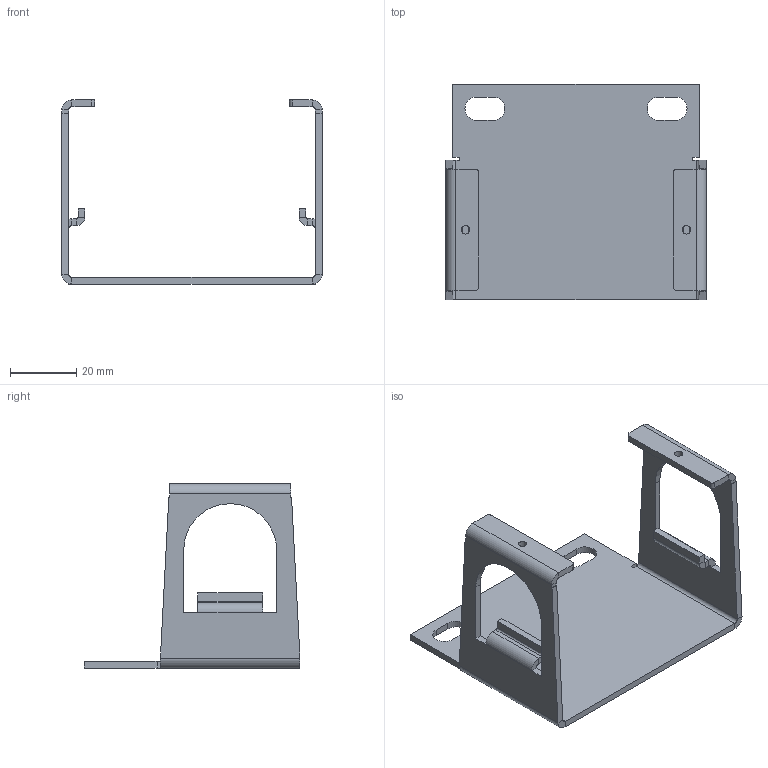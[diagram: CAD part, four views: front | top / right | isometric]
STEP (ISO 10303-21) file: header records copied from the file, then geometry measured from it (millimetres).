
FILE_DESCRIPTION(/* description */ (''),/* implementation_level */ '2;1');
FILE_NAME(/* name */ 'B-BW00-510.step',/* time_stamp */ '2023-11-09T10:07:28+01:00',/* author */ (''),/* organization */ (''),/* preprocessor_version */ 'ST-DEVELOPER v20',/* originating_system */ 'Autodesk Translation Framework v12.14.0.127',/* authorisation */ '');
FILE_SCHEMA (('AUTOMOTIVE_DESIGN { 1 0 10303 214 3 1 1 }'));
Length unit declared in the file: millimetre
Products named in the file (2): B-BW00-510; SN-2459-01 MOUNTING BKT.- SINGLE UNIT.20 Series
Assembly tree (1 placements, depth 2):
  B-BW00-510
    SN-2459-01 MOUNTING BKT.- SINGLE UNIT.20 Series
Bounding box: 78.36 x 65 x 55.47 mm (x, y, z)
Volume: 16594.9 mm3; surface area: 18077.4 mm2
Topology: 1 solids, 1 shells, 112 faces, 266 edges, 156 vertices
Faces by surface type: plane 84, cylinder 28
Full cylindrical faces by diameter (mm): 2.5 x2
Entity records: 3227 total; most frequent: DIRECTION 552, CARTESIAN_POINT 537, ORIENTED_EDGE 532, EDGE_CURVE 266, LINE 210, VECTOR 210, AXIS2_PLACEMENT_3D 171, VERTEX_POINT 156
